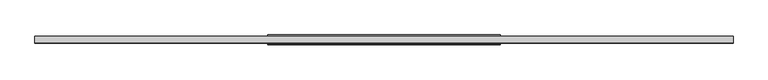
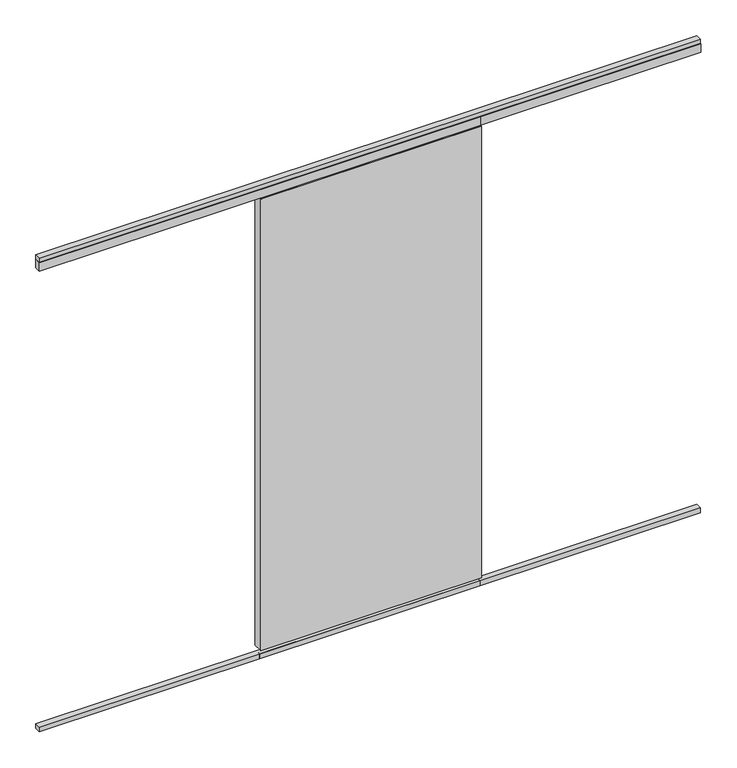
"""IFC4 building model written with IfcOpenShell, lengths in millimetres: proxy geometry, Renson_Algarve_Loggia_Canvas : Renson_Algarve_Loggia_Canvas."""

from ifc_helpers import new_model, si_unit, frame, origin, origin_with_axes, place, context, project, spatial, polyline, outline, extrude, source, transform, mapped, element, save


def generic_models_683ab45b(model_context):
    return source(origin(), model_context, "Body", "SweptSolid", [
        extrude(outline(polyline([(1500.0, -13.0), (-1500.0, -13.0), (-1500.0, 14.0), (1500.0, 14.0), (1500.0, -13.0)])), frame((0.0, 0.0, 2250.0), z_axis=(0.0, 0.0, 1.0), x_axis=(1.0, 0.0, 0.0)), (0.0, 0.0, 1.0), 20.0),
        extrude(outline(polyline([(500.0, 15.0), (500.0, -15.0), (-1500.0, -15.0), (-1500.0, 15.0), (500.0, 15.0)])), frame((0.0, 0.0, 2207.7138321), z_axis=(0.0, 0.0, 1.0), x_axis=(1.0, 0.0, 0.0)), (0.0, 0.0, 1.0), 42.2861679),
        extrude(outline(polyline([(1500.0, 15.0), (1500.0, -15.0), (-500.0, -15.0), (-500.0, 15.0), (1500.0, 15.0)])), frame((0.0, 0.0, 2207.7138321), z_axis=(0.0, 0.0, 1.0), x_axis=(1.0, 0.0, 0.0)), (0.0, 0.0, 1.0), 42.2861679),
        extrude(outline(polyline([(500.0, -13.0), (-1500.0, -13.0), (-1500.0, 14.0), (500.0, 14.0), (500.0, -13.0)])), origin_with_axes(), (0.0, 0.0, 1.0), 23.0),
        extrude(outline(polyline([(500.0, -23.0), (-500.0, -23.0), (-500.0, -20.0), (500.0, -20.0), (500.0, -23.0)])), frame((0.0, 0.0, 45.0), z_axis=(0.0, 0.0, 1.0), x_axis=(1.0, 0.0, 0.0)), (0.0, 0.0, 1.0), 2162.7138321),
        extrude(outline(polyline([(1500.0, -13.0), (-500.0, -13.0), (-500.0, 14.0), (1500.0, 14.0), (1500.0, -13.0)])), origin_with_axes(), (0.0, 0.0, 1.0), 23.0),
        extrude(outline(polyline([(2207.7138321, -500.0), (45.0, -500.0), (45.0, 500.0), (2207.7138321, 500.0), (2207.7138321, -500.0)]), holes=[polyline([(2167.7138321, 460.0), (85.0, 460.0), (85.0, -460.0), (2167.7138321, -460.0), (2167.7138321, 460.0)])]), frame((0.0, -20.0, 0.0), z_axis=(0.0, 1.0, 0.0), x_axis=(0.0, 0.0, 1.0)), (0.0, 0.0, 1.0), 40.0),
    ])


if __name__ == "__main__":
    model = new_model("IFC4")
    model_context = context("Model", 3, world=origin())
    ifc_project = project(units=[si_unit("LENGTHUNIT", "METRE", prefix="MILLI")], contexts=[model_context])
    site = spatial("IfcSite", under=ifc_project)
    building = spatial("IfcBuilding", under=site)
    placement = place(None, origin())
    generic_models_shape = generic_models_683ab45b(model_context)
    element("IfcBuildingElementProxy", 1, Name="Renson_Algarve_Loggia_Canvas : Renson_Algarve_Loggia_Canvas", ObjectType="Renson_Algarve_Loggia_Canvas : Renson_Algarve_Loggia_Canvas", at=placement, inside=building, context=model_context, shape_type="MappedRepresentation", body=[
        mapped(generic_models_shape, transform((0.0, 0.0, 0.0), x_axis=(1.0, 0.0, 0.0), y_axis=(0.0, 1.0, 0.0), z_axis=(0.0, 0.0, 1.0))),
    ])
    save(model, "model.ifc")
